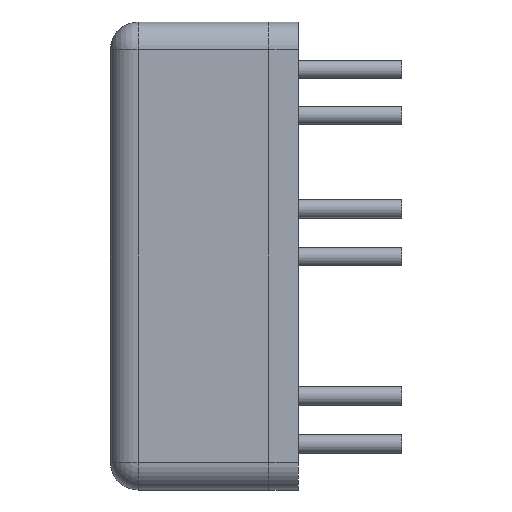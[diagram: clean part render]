
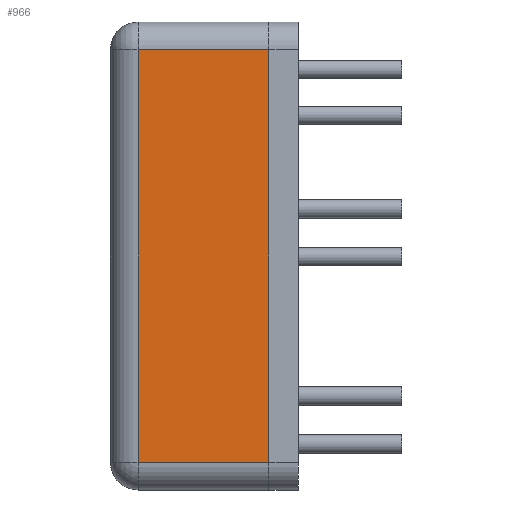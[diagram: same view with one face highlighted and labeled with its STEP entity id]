
A CAD part, left-side view. The second image highlights one B-rep face of the part: STEP entity #966.
In plain terms, the highlighted planar face has unit normal (-1, 0, 0).
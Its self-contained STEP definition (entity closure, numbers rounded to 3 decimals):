
#315 = VERTEX_POINT ( 'NONE', #15208 ) ;
#966 = ADVANCED_FACE ( 'NONE', ( #6453 ), #13824, .F. ) ;
#1088 = VERTEX_POINT ( 'NONE', #4948 ) ;
#1579 = CARTESIAN_POINT ( 'NONE',  ( -25.4, 8.6, 11.2 ) ) ;
#3711 = DIRECTION ( 'NONE',  ( 0., 0., -1. ) ) ;
#4913 = VECTOR ( 'NONE', #13542, 1000. ) ;
#4948 = CARTESIAN_POINT ( 'NONE',  ( -25.4, 7.1, 11.2 ) ) ;
#5021 = ORIENTED_EDGE ( 'NONE', *, *, #5278, .T. ) ;
#5278 = EDGE_CURVE ( 'NONE', #14761, #315, #7853, .T. ) ;
#5890 = DIRECTION ( 'NONE',  ( 0., 0., 1. ) ) ;
#5950 = VECTOR ( 'NONE', #5890, 1000. ) ;
#6065 = DIRECTION ( 'NONE',  ( 1., 0., 0. ) ) ;
#6336 = DIRECTION ( 'NONE',  ( 0., -1., 0. ) ) ;
#6453 = FACE_OUTER_BOUND ( 'NONE', #13196, .T. ) ;
#6501 = CARTESIAN_POINT ( 'NONE',  ( -25.4, 7.1, -11.2 ) ) ;
#7431 = DIRECTION ( 'NONE',  ( 0., 0., -1. ) ) ;
#7853 = LINE ( 'NONE', #14141, #13612 ) ;
#7855 = EDGE_CURVE ( 'NONE', #315, #9788, #10517, .T. ) ;
#8950 = EDGE_CURVE ( 'NONE', #1088, #14761, #12264, .T. ) ;
#9279 = LINE ( 'NONE', #1579, #4913 ) ;
#9657 = CARTESIAN_POINT ( 'NONE',  ( -25.4, 0., 11.2 ) ) ;
#9788 = VERTEX_POINT ( 'NONE', #9657 ) ;
#9984 = ORIENTED_EDGE ( 'NONE', *, *, #12275, .T. ) ;
#10082 = ORIENTED_EDGE ( 'NONE', *, *, #8950, .T. ) ;
#10517 = LINE ( 'NONE', #15272, #5950 ) ;
#11355 = ORIENTED_EDGE ( 'NONE', *, *, #7855, .T. ) ;
#11454 = CARTESIAN_POINT ( 'NONE',  ( -25.4, 8.6, -12.7 ) ) ;
#12264 = LINE ( 'NONE', #15707, #15593 ) ;
#12275 = EDGE_CURVE ( 'NONE', #9788, #1088, #9279, .T. ) ;
#13196 = EDGE_LOOP ( 'NONE', ( #10082, #5021, #11355, #9984 ) ) ;
#13542 = DIRECTION ( 'NONE',  ( 0., 1., 0. ) ) ;
#13612 = VECTOR ( 'NONE', #6336, 1000. ) ;
#13824 = PLANE ( 'NONE',  #15204 ) ;
#14141 = CARTESIAN_POINT ( 'NONE',  ( -25.4, 8.6, -11.2 ) ) ;
#14761 = VERTEX_POINT ( 'NONE', #6501 ) ;
#15204 = AXIS2_PLACEMENT_3D ( 'NONE', #11454, #6065, #7431 ) ;
#15208 = CARTESIAN_POINT ( 'NONE',  ( -25.4, 0., -11.2 ) ) ;
#15272 = CARTESIAN_POINT ( 'NONE',  ( -25.4, 0., -12.7 ) ) ;
#15593 = VECTOR ( 'NONE', #3711, 1000. ) ;
#15707 = CARTESIAN_POINT ( 'NONE',  ( -25.4, 7.1, -12.7 ) ) ;
